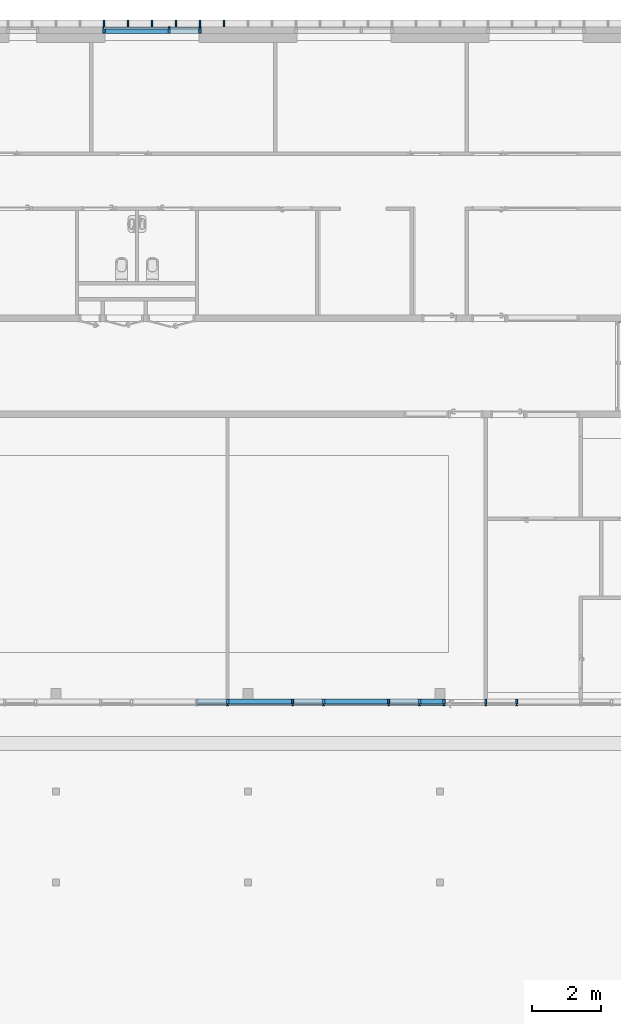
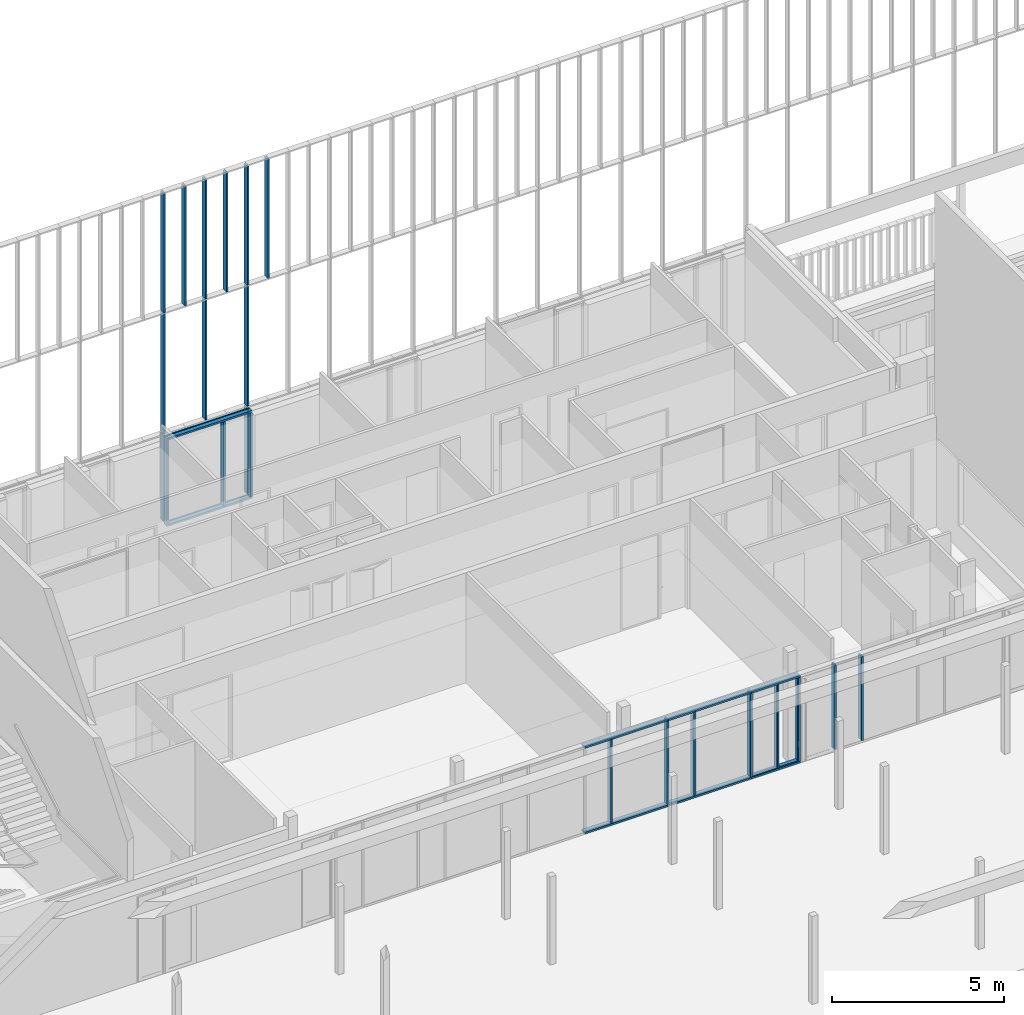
# One storey, part 18 of 240: 34 members, 4 elements without a shape of their own.
"""IFC2X3 building model written with IfcOpenShell, lengths in centimetres."""

from ifc_helpers import new_model, entity, si_unit, converted_unit, derived_unit, direction, frame, origin, origin_2d_with_axis, place, context, subcontext, project, spatial, polyline, rectangle, outline, extrude, source, transform, mapped, material, type_object, type_shapes, element, aggregate, save


model = new_model("IFC2X3")

# Units and contexts
model_context = context("Model", 3, precision=0.001, world=origin(), true_north=direction((6.12303176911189e-17, 1.0)))
body_context = subcontext(model_context, "Body", "Model", "MODEL_VIEW")
ifc_project = project(units=[si_unit("LENGTHUNIT", "METRE", prefix="CENTI"), si_unit("AREAUNIT", "SQUARE_METRE"), si_unit("VOLUMEUNIT", "CUBIC_METRE"), converted_unit("PLANEANGLEUNIT", "DEGREE", entity("IfcRatioMeasure", 0.0174532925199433), si_unit("PLANEANGLEUNIT", "RADIAN"), dimensions=[0, 0, 0, 0, 0, 0, 0]), si_unit("MASSUNIT", "GRAM", prefix="KILO"), derived_unit("MASSDENSITYUNIT", [(si_unit("MASSUNIT", "GRAM", prefix="KILO"), 1), (si_unit("LENGTHUNIT", "METRE"), -3)]), si_unit("TIMEUNIT", "SECOND"), si_unit("FREQUENCYUNIT", "HERTZ"), si_unit("THERMODYNAMICTEMPERATUREUNIT", "DEGREE_CELSIUS"), derived_unit("THERMALTRANSMITTANCEUNIT", [(si_unit("MASSUNIT", "GRAM", prefix="KILO"), 1), (si_unit("THERMODYNAMICTEMPERATUREUNIT", "KELVIN"), -1), (si_unit("TIMEUNIT", "SECOND"), -3)]), derived_unit("VOLUMETRICFLOWRATEUNIT", [(si_unit("LENGTHUNIT", "METRE"), 3), (si_unit("TIMEUNIT", "SECOND"), -1)]), si_unit("ELECTRICCURRENTUNIT", "AMPERE"), si_unit("ELECTRICVOLTAGEUNIT", "VOLT"), si_unit("POWERUNIT", "WATT"), si_unit("FORCEUNIT", "NEWTON", prefix="KILO"), si_unit("ILLUMINANCEUNIT", "LUX"), si_unit("LUMINOUSFLUXUNIT", "LUMEN"), si_unit("LUMINOUSINTENSITYUNIT", "CANDELA"), derived_unit("USERDEFINED", [(si_unit("MASSUNIT", "GRAM", prefix="KILO"), -1), (si_unit("LENGTHUNIT", "METRE"), -2), (si_unit("TIMEUNIT", "SECOND"), 3), (si_unit("LUMINOUSFLUXUNIT", "LUMEN"), 1)]), derived_unit("LINEARVELOCITYUNIT", [(si_unit("LENGTHUNIT", "METRE"), 1), (si_unit("TIMEUNIT", "SECOND"), -1)]), si_unit("PRESSUREUNIT", "PASCAL"), derived_unit("USERDEFINED", [(si_unit("LENGTHUNIT", "METRE"), -2), (si_unit("MASSUNIT", "GRAM", prefix="KILO"), 1), (si_unit("TIMEUNIT", "SECOND"), -2)])], contexts=[model_context])

# Site, building, storey
site_placement = place(None, frame((-2781.94577612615, 7442.24238424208, 0.0)))
site = spatial("IfcSite", under=ifc_project, at=site_placement, Name="Default", CompositionType="ELEMENT")
building_placement = place(site_placement, origin())
building = spatial("IfcBuilding", under=site, at=building_placement, CompositionType="ELEMENT")
storey_placement = place(building_placement, origin())
storey = spatial("IfcBuildingStorey", under=building, at=storey_placement, Name="N00 - COO", CompositionType="ELEMENT", Elevation=0.0)

# Curtain wall, members
curtain_wall_type_1 = type_object("IfcCurtainWallType", Name="Mur-rideau:07 - mur rideau trame 280 cm", PredefinedType="NOTDEFINED")
curtain_wall_1_placement = place(building_placement, origin())
curtain_wall_1 = element("IfcCurtainWall", 1, at=curtain_wall_1_placement, inside=storey, type_object=curtain_wall_type_1, Name="Mur-rideau:07 - mur rideau trame 280 cm", ObjectType="Mur-rideau:07 - mur rideau trame 280 cm")
ifc_material = material(Name="Aluminium")
member_type_1 = type_object("IfcMemberType", Name="150 x 25mm Détails", PredefinedType="MEMBER")
shared_shape_1 = source(origin(), body_context, "Body", "SweptSolid", [
    extrude(outline(polyline([(-5.66666666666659, -3.25), (-3.66666666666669, -3.25), (-3.66666666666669, -0.868749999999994), (-0.166666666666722, -0.868749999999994), (-0.166666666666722, -3.25000000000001), (13.3333333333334, -3.24999999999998), (13.3333333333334, 3.25000000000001), (-0.166666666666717, 3.25000000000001), (-0.166666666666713, 0.868749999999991), (-3.66666666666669, 0.868749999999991), (-3.66666666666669, 3.24999999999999), (-5.66666666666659, 3.24999999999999), (-5.66666666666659, -3.25)])), frame((-3.24999999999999, -1.96666666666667, -280.0), z_axis=(0.0, 0.0, 1.0), x_axis=(0.0, -1.0, 0.0)), (0.0, 0.0, 1.0), 280.00000003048),
])
type_shapes(member_type_1, [shared_shape_1])
member_1_placement = place(building_placement, frame((-6446.24987760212, 26.2000000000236, 0.0), z_axis=(1.0, 0.0, 0.0), x_axis=(0.0, 0.0, -1.0)))
member_1 = element("IfcMember", 2, at=member_1_placement, type_object=member_type_1, material=ifc_material, Name="Meneau rectangulaire:150 x 25mm Détails", ObjectType="Meneau rectangulaire:150 x 25mm Détails", context=body_context, shape_type="MappedRepresentation", body=[
    mapped(shared_shape_1, transform((0.0, 0.0, 0.0), scale=1.0)),
])
member_type_2 = type_object("IfcMemberType", Name="150 x 25mm Détails", PredefinedType="MEMBER")
shared_shape_2 = source(origin(), body_context, "Body", "SweptSolid", [
    extrude(outline(polyline([(-5.66666666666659, -3.25), (-3.66666666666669, -3.25), (-3.66666666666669, -0.868749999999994), (-0.166666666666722, -0.868749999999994), (-0.166666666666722, -3.25000000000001), (13.3333333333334, -3.24999999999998), (13.3333333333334, 3.25000000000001), (-0.166666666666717, 3.25000000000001), (-0.166666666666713, 0.868749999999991), (-3.66666666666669, 0.868749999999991), (-3.66666666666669, 3.24999999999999), (-5.66666666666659, 3.24999999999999), (-5.66666666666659, -3.25)])), frame((-3.24999999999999, -1.96666666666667, -299.5), z_axis=(0.0, 0.0, 1.0), x_axis=(0.0, -1.0, 0.0)), (0.0, 0.0, 1.0), 299.5),
])
type_shapes(member_type_2, [shared_shape_2])
member_2_placement = place(building_placement, frame((-6536.24987760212, 26.2000000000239, 306.0)))
member_2 = element("IfcMember", 3, at=member_2_placement, type_object=member_type_2, material=ifc_material, Name="Meneau rectangulaire:150 x 25mm Détails", ObjectType="Meneau rectangulaire:150 x 25mm Détails", context=body_context, shape_type="MappedRepresentation", body=[
    mapped(shared_shape_2, transform((0.0, 0.0, 0.0), scale=1.0)),
])

curtain_wall_2_placement = place(building_placement, origin())
curtain_wall_2 = element("IfcCurtainWall", 4, at=curtain_wall_2_placement, inside=storey, type_object=curtain_wall_type_1, Name="Mur-rideau:07 - mur rideau trame 280 cm", ObjectType="Mur-rideau:07 - mur rideau trame 280 cm")
member_3_placement = place(building_placement, frame((-6092.74987760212, -1946.27903364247, 306.0), z_axis=(0.0, 0.0, 1.0), x_axis=(-1.0, 0.0, 0.0)))
member_3 = element("IfcMember", 5, at=member_3_placement, type_object=member_type_2, material=ifc_material, Name="Meneau rectangulaire:150 x 25mm Détails", ObjectType="Meneau rectangulaire:150 x 25mm Détails", context=body_context, shape_type="MappedRepresentation", body=[
    mapped(shared_shape_2, transform((0.0, 0.0, 0.0), scale=1.0)),
])
member_4_placement = place(building_placement, frame((-6372.74987760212, -1946.27903364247, 306.0), z_axis=(0.0, 0.0, 1.0), x_axis=(-1.0, 0.0, 0.0)))
member_4 = element("IfcMember", 6, at=member_4_placement, type_object=member_type_2, material=ifc_material, Name="Meneau rectangulaire:150 x 25mm Détails", ObjectType="Meneau rectangulaire:150 x 25mm Détails", context=body_context, shape_type="MappedRepresentation", body=[
    mapped(shared_shape_2, transform((0.0, 0.0, 0.0), scale=1.0)),
])
member_5_placement = place(building_placement, frame((-5812.74987760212, -1946.27903364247, 306.0), z_axis=(0.0, 0.0, 1.0), x_axis=(-1.0, 0.0, 0.0)))
member_5 = element("IfcMember", 7, at=member_5_placement, type_object=member_type_2, material=ifc_material, Name="Meneau rectangulaire:150 x 25mm Détails", ObjectType="Meneau rectangulaire:150 x 25mm Détails", context=body_context, shape_type="MappedRepresentation", body=[
    mapped(shared_shape_2, transform((0.0, 0.0, 0.0), scale=1.0)),
])

# Curtain wall, member
curtain_wall_3_placement = place(building_placement, origin())
curtain_wall_3 = element("IfcCurtainWall", 8, at=curtain_wall_3_placement, inside=storey, type_object=curtain_wall_type_1, Name="Mur-rideau:07 - mur rideau trame 280 cm", ObjectType="Mur-rideau:07 - mur rideau trame 280 cm")
member_6_placement = place(building_placement, frame((-5529.49987760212, -1946.27903364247, 306.0), z_axis=(0.0, 0.0, 1.0), x_axis=(-1.0, 0.0, 0.0)))
member_6 = element("IfcMember", 9, at=member_6_placement, type_object=member_type_2, material=ifc_material, Name="Meneau rectangulaire:150 x 25mm Détails", ObjectType="Meneau rectangulaire:150 x 25mm Détails", context=body_context, shape_type="MappedRepresentation", body=[
    mapped(shared_shape_2, transform((0.0, 0.0, 0.0), scale=1.0)),
])

# Member
member_type_3 = type_object("IfcMemberType", Name="150 x 25mm Détails", PredefinedType="MEMBER")
shared_shape_3 = source(origin(), body_context, "Body", "SweptSolid", [
    extrude(outline(polyline([(-5.6666666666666, -3.24999999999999), (-3.66666666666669, -3.24999999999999), (-3.66666666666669, -0.868749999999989), (-0.166666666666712, -0.868749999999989), (-0.166666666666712, -3.25000000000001), (13.3333333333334, -3.25000000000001), (13.3333333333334, 3.24999999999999), (-0.16666666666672, 3.24999999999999), (-0.16666666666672, 0.868749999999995), (-3.66666666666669, 0.868749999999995), (-3.66666666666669, 3.25), (-5.6666666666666, 3.25), (-5.6666666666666, -3.24999999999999)])), frame((-3.24999999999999, -1.96666666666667, -299.5), z_axis=(0.0, 0.0, 1.0), x_axis=(0.0, -1.0, 0.0)), (0.0, 0.0, 1.0), 299.5),
])
type_shapes(member_type_3, [shared_shape_3])
member_7_placement = place(building_placement, frame((-6452.74987760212, 26.2000000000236, 6.5), z_axis=(0.0, 0.0, -1.0), x_axis=(-1.0, 0.0, 0.0)))
member_7 = element("IfcMember", 10, at=member_7_placement, type_object=member_type_3, material=ifc_material, Name="Meneau rectangulaire:150 x 25mm Détails", ObjectType="Meneau rectangulaire:150 x 25mm Détails", context=body_context, shape_type="MappedRepresentation", body=[
    mapped(shared_shape_3, transform((0.0, 0.0, 0.0), scale=1.0)),
])

member_8_placement = place(building_placement, frame((-6176.24987760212, -1946.27903364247, 6.49999999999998), z_axis=(0.0, 0.0, -1.0), x_axis=(1.0, 0.0, 0.0)))
member_8 = element("IfcMember", 11, at=member_8_placement, type_object=member_type_3, material=ifc_material, Name="Meneau rectangulaire:150 x 25mm Détails", ObjectType="Meneau rectangulaire:150 x 25mm Détails", context=body_context, shape_type="MappedRepresentation", body=[
    mapped(shared_shape_3, transform((0.0, 0.0, 0.0), scale=1.0)),
])

member_9_placement = place(building_placement, frame((-5896.24987760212, -1946.27903364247, 6.49999999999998), z_axis=(0.0, 0.0, -1.0), x_axis=(1.0, 0.0, 0.0)))
member_9 = element("IfcMember", 12, at=member_9_placement, type_object=member_type_3, material=ifc_material, Name="Meneau rectangulaire:150 x 25mm Détails", ObjectType="Meneau rectangulaire:150 x 25mm Détails", context=body_context, shape_type="MappedRepresentation", body=[
    mapped(shared_shape_3, transform((0.0, 0.0, 0.0), scale=1.0)),
])

member_10_placement = place(building_placement, frame((-5612.99987760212, -1946.27903364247, 6.5), z_axis=(0.0, 0.0, -1.0), x_axis=(1.0, 0.0, 0.0)))
member_10 = element("IfcMember", 13, at=member_10_placement, type_object=member_type_3, material=ifc_material, Name="Meneau rectangulaire:150 x 25mm Détails", ObjectType="Meneau rectangulaire:150 x 25mm Détails", context=body_context, shape_type="MappedRepresentation", body=[
    mapped(shared_shape_3, transform((0.0, 0.0, 0.0), scale=1.0)),
])

member_type_4 = type_object("IfcMemberType", Name="150 x 25mm Détails", PredefinedType="MEMBER")
shared_shape_4 = source(origin(), body_context, "Body", "SweptSolid", [
    extrude(outline(polyline([(-5.6666666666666, -3.24999999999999), (-3.66666666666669, -3.24999999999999), (-3.66666666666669, -0.868749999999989), (-0.166666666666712, -0.868749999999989), (-0.166666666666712, -3.25000000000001), (13.3333333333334, -3.25000000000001), (13.3333333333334, 3.24999999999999), (-0.16666666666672, 3.24999999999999), (-0.16666666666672, 0.868749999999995), (-3.66666666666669, 0.868749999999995), (-3.66666666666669, 3.25), (-5.6666666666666, 3.25), (-5.6666666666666, -3.24999999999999)])), frame((-3.24999999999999, -1.96666666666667, -280.0), z_axis=(0.0, 0.0, 1.0), x_axis=(0.0, -1.0, 0.0)), (0.0, 0.0, 1.0), 280.000000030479),
])
type_shapes(member_type_4, [shared_shape_4])
member_11_placement = place(building_placement, frame((-6726.2498776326, 26.2000000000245, 313.0), z_axis=(-1.0, 0.0, 0.0), x_axis=(0.0, 0.0, 1.0)))
member_11 = element("IfcMember", 14, at=member_11_placement, type_object=member_type_4, material=ifc_material, Name="Meneau rectangulaire:150 x 25mm Détails", ObjectType="Meneau rectangulaire:150 x 25mm Détails", context=body_context, shape_type="MappedRepresentation", body=[
    mapped(shared_shape_4, transform((0.0, 0.0, 0.0), scale=1.0)),
])

member_type_5 = type_object("IfcMemberType", Name="150 x 25mm Détails", PredefinedType="MEMBER")
shared_shape_5 = source(origin(), body_context, "Body", "SweptSolid", [
    extrude(outline(polyline([(-5.6666666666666, -3.24999999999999), (-3.66666666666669, -3.24999999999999), (-3.66666666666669, -0.868749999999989), (-0.166666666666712, -0.868749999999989), (-0.166666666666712, -3.25000000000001), (13.3333333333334, -3.25000000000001), (13.3333333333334, 3.24999999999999), (-0.16666666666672, 3.24999999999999), (-0.16666666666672, 0.868749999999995), (-3.66666666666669, 0.868749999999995), (-3.66666666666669, 3.25), (-5.6666666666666, 3.25), (-5.6666666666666, -3.24999999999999)])), frame((-3.24999999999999, -1.96666666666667, -313.0), z_axis=(0.0, 0.0, 1.0), x_axis=(0.0, -1.0, 0.0)), (0.0, 0.0, 1.0), 313.0),
])
type_shapes(member_type_5, [shared_shape_5])
member_12_placement = place(building_placement, frame((-6732.74987760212, 26.2000000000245, 0.0), z_axis=(0.0, 0.0, -1.0), x_axis=(-1.0, 0.0, 0.0)))
member_12 = element("IfcMember", 15, at=member_12_placement, type_object=member_type_5, material=ifc_material, Name="Meneau rectangulaire:150 x 25mm Détails", ObjectType="Meneau rectangulaire:150 x 25mm Détails", context=body_context, shape_type="MappedRepresentation", body=[
    mapped(shared_shape_5, transform((0.0, 0.0, 0.0), scale=1.0)),
])

member_type_6 = type_object("IfcMemberType", Name="150 x 25mm Détails", PredefinedType="MEMBER")
shared_shape_6 = source(origin(), body_context, "Body", "SweptSolid", [
    extrude(outline(polyline([(-5.66666666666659, -3.25), (-3.66666666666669, -3.25), (-3.66666666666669, -0.868749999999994), (-0.166666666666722, -0.868749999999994), (-0.166666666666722, -3.25000000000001), (13.3333333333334, -3.24999999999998), (13.3333333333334, 3.25000000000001), (-0.166666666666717, 3.25000000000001), (-0.166666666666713, 0.868749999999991), (-3.66666666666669, 0.868749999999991), (-3.66666666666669, 3.24999999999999), (-5.66666666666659, 3.24999999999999), (-5.66666666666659, -3.25)])), frame((-3.24999999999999, -1.96666666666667, -300.0), z_axis=(0.0, 0.0, 1.0), x_axis=(0.0, -1.0, 0.0)), (0.0, 0.0, 1.0), 300.0),
])
type_shapes(member_type_6, [shared_shape_6])
member_13_placement = place(building_placement, frame((-6446.24987760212, 26.2000000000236, 306.5)))
member_13 = element("IfcMember", 16, at=member_13_placement, type_object=member_type_6, material=ifc_material, Name="Meneau rectangulaire:150 x 25mm Détails", ObjectType="Meneau rectangulaire:150 x 25mm Détails", context=body_context, shape_type="MappedRepresentation", body=[
    mapped(shared_shape_6, transform((0.0, 0.0, 0.0), scale=1.0)),
])

aggregate(curtain_wall_1, [member_1, member_12, member_13, member_2, member_7, member_11])

# Curtain wall, members
curtain_wall_type_2 = type_object("IfcCurtainWallType", Name="Mur-rideau:Epines - 200x50mm", PredefinedType="NOTDEFINED")
curtain_wall_4_placement = place(building_placement, origin())
curtain_wall_4 = element("IfcCurtainWall", 17, at=curtain_wall_4_placement, inside=storey, type_object=curtain_wall_type_2, Name="Mur-rideau:Epines - 200x50mm", ObjectType="Mur-rideau:Epines - 200x50mm")
member_type_7 = type_object("IfcMemberType", Name="200x50 mm", PredefinedType="MEMBER")
shared_shape_7 = source(origin(), body_context, "Body", "SweptSolid", [
    extrude(rectangle(XDim=20.0, YDim=5.0, at=origin_2d_with_axis()), frame((0.0, 0.0, -423.0), z_axis=(0.0, 0.0, 1.0), x_axis=(0.0, -1.0, 0.0)), (0.0, 0.0, 1.0), 423.000000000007),
])
type_shapes(member_type_7, [shared_shape_7])
member_14_placement = place(building_placement, frame((-6449.49987760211, 40.0, 748.0), z_axis=(0.0, 0.0, -1.0), x_axis=(1.0, 0.0, 0.0)))
member_14 = element("IfcMember", 18, at=member_14_placement, type_object=member_type_7, material=ifc_material, Name="Meneau rectangulaire:200x50 mm", ObjectType="Meneau rectangulaire:200x50 mm", context=body_context, shape_type="MappedRepresentation", body=[
    mapped(shared_shape_7, transform((0.0, 0.0, 0.0), scale=1.0)),
])
member_15_placement = place(building_placement, frame((-6729.49987760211, 40.0, 748.0), z_axis=(0.0, 0.0, -1.0), x_axis=(1.0, 0.0, 0.0)))
member_15 = element("IfcMember", 19, at=member_15_placement, type_object=member_type_7, material=ifc_material, Name="Meneau rectangulaire:200x50 mm", ObjectType="Meneau rectangulaire:200x50 mm", context=body_context, shape_type="MappedRepresentation", body=[
    mapped(shared_shape_7, transform((0.0, 0.0, 0.0), scale=1.0)),
])
member_16_placement = place(building_placement, frame((-6589.49987760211, 40.0, 748.0), z_axis=(0.0, 0.0, -1.0), x_axis=(1.0, 0.0, 0.0)))
member_16 = element("IfcMember", 20, at=member_16_placement, type_object=member_type_7, material=ifc_material, Name="Meneau rectangulaire:200x50 mm", ObjectType="Meneau rectangulaire:200x50 mm", context=body_context, shape_type="MappedRepresentation", body=[
    mapped(shared_shape_7, transform((0.0, 0.0, 0.0), scale=1.0)),
])
member_17_placement = place(building_placement, frame((-6379.49987760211, 40.0, 748.0), z_axis=(0.0, 0.0, -1.0), x_axis=(1.0, 0.0, 0.0)))
member_17 = element("IfcMember", 21, at=member_17_placement, type_object=member_type_7, material=ifc_material, Name="Meneau rectangulaire:200x50 mm", ObjectType="Meneau rectangulaire:200x50 mm", context=body_context, shape_type="MappedRepresentation", body=[
    mapped(shared_shape_7, transform((0.0, 0.0, 0.0), scale=1.0)),
])
member_18_placement = place(building_placement, frame((-6659.49987760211, 40.0, 748.0), z_axis=(0.0, 0.0, -1.0), x_axis=(1.0, 0.0, 0.0)))
member_18 = element("IfcMember", 22, at=member_18_placement, type_object=member_type_7, material=ifc_material, Name="Meneau rectangulaire:200x50 mm", ObjectType="Meneau rectangulaire:200x50 mm", context=body_context, shape_type="MappedRepresentation", body=[
    mapped(shared_shape_7, transform((0.0, 0.0, 0.0), scale=1.0)),
])
member_19_placement = place(building_placement, frame((-6519.49987760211, 40.0, 748.0), z_axis=(0.0, 0.0, -1.0), x_axis=(1.0, 0.0, 0.0)))
member_19 = element("IfcMember", 23, at=member_19_placement, type_object=member_type_7, material=ifc_material, Name="Meneau rectangulaire:200x50 mm", ObjectType="Meneau rectangulaire:200x50 mm", context=body_context, shape_type="MappedRepresentation", body=[
    mapped(shared_shape_7, transform((0.0, 0.0, 0.0), scale=1.0)),
])
member_type_8 = type_object("IfcMemberType", Name="200x50 mm", PredefinedType="MEMBER")
shared_shape_8 = source(origin(), body_context, "Body", "SweptSolid", [
    extrude(rectangle(XDim=20.0, YDim=5.0, at=origin_2d_with_axis()), frame((0.0, 0.0, -425.5), z_axis=(0.0, 0.0, 1.0), x_axis=(0.0, -1.0, 0.0)), (0.0, 0.0, 1.0), 425.5),
])
type_shapes(member_type_8, [shared_shape_8])
member_20_placement = place(building_placement, frame((-6449.49987760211, 40.0, 317.5), z_axis=(0.0, 0.0, -1.0), x_axis=(1.0, 0.0, 0.0)))
member_20 = element("IfcMember", 24, at=member_20_placement, type_object=member_type_8, material=ifc_material, Name="Meneau rectangulaire:200x50 mm", ObjectType="Meneau rectangulaire:200x50 mm", context=body_context, shape_type="MappedRepresentation", body=[
    mapped(shared_shape_8, transform((0.0, 0.0, 0.0), scale=1.0)),
])
member_21_placement = place(building_placement, frame((-6729.49987760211, 40.0, 317.5), z_axis=(0.0, 0.0, -1.0), x_axis=(1.0, 0.0, 0.0)))
member_21 = element("IfcMember", 25, at=member_21_placement, type_object=member_type_8, material=ifc_material, Name="Meneau rectangulaire:200x50 mm", ObjectType="Meneau rectangulaire:200x50 mm", context=body_context, shape_type="MappedRepresentation", body=[
    mapped(shared_shape_8, transform((0.0, 0.0, 0.0), scale=1.0)),
])
member_22_placement = place(building_placement, frame((-6589.49987760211, 40.0, 317.5), z_axis=(0.0, 0.0, -1.0), x_axis=(1.0, 0.0, 0.0)))
member_22 = element("IfcMember", 26, at=member_22_placement, type_object=member_type_8, material=ifc_material, Name="Meneau rectangulaire:200x50 mm", ObjectType="Meneau rectangulaire:200x50 mm", context=body_context, shape_type="MappedRepresentation", body=[
    mapped(shared_shape_8, transform((0.0, 0.0, 0.0), scale=1.0)),
])
member_type_9 = type_object("IfcMemberType", Name="200x50 mm", PredefinedType="MEMBER")
shared_shape_9 = source(origin(), body_context, "Body", "SweptSolid", [
    extrude(rectangle(XDim=20.0, YDim=5.0, at=origin_2d_with_axis()), frame((0.0, 0.0, -307.5), z_axis=(0.0, 0.0, 1.0), x_axis=(0.0, -1.0, 0.0)), (0.0, 0.0, 1.0), 307.5),
])
type_shapes(member_type_9, [shared_shape_9])
member_23_placement = place(building_placement, frame((-6449.49987760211, 40.0, 5.0), z_axis=(0.0, 0.0, -1.0), x_axis=(1.0, 0.0, 0.0)))
member_23 = element("IfcMember", 27, at=member_23_placement, type_object=member_type_9, material=ifc_material, Name="Meneau rectangulaire:200x50 mm", ObjectType="Meneau rectangulaire:200x50 mm", context=body_context, shape_type="MappedRepresentation", body=[
    mapped(shared_shape_9, transform((0.0, 0.0, 0.0), scale=1.0)),
])
member_24_placement = place(building_placement, frame((-6729.49987760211, 40.0, 5.0), z_axis=(0.0, 0.0, -1.0), x_axis=(1.0, 0.0, 0.0)))
member_24 = element("IfcMember", 28, at=member_24_placement, type_object=member_type_9, material=ifc_material, Name="Meneau rectangulaire:200x50 mm", ObjectType="Meneau rectangulaire:200x50 mm", context=body_context, shape_type="MappedRepresentation", body=[
    mapped(shared_shape_9, transform((0.0, 0.0, 0.0), scale=1.0)),
])
aggregate(curtain_wall_4, [member_14, member_20, member_23, member_15, member_21, member_24, member_16, member_22, member_17, member_18, member_19])

# Member
member_type_10 = type_object("IfcMemberType", Name="150 x 25mm Détails", PredefinedType="MEMBER")
shared_shape_10 = source(origin(), body_context, "Body", "SweptSolid", [
    extrude(outline(polyline([(-5.66666666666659, -3.25), (-3.66666666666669, -3.25), (-3.66666666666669, -0.868749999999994), (-0.166666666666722, -0.868749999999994), (-0.166666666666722, -3.25000000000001), (13.3333333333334, -3.24999999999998), (13.3333333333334, 3.25000000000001), (-0.166666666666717, 3.25000000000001), (-0.166666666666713, 0.868749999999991), (-3.66666666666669, 0.868749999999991), (-3.66666666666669, 3.24999999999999), (-5.66666666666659, 3.24999999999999), (-5.66666666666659, -3.25)])), frame((-3.24999999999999, -1.96666666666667, -280.0), z_axis=(0.0, 0.0, 1.0), x_axis=(0.0, -1.0, 0.0)), (0.0, 0.0, 1.0), 280.0),
])
type_shapes(member_type_10, [shared_shape_10])
member_25_placement = place(building_placement, frame((-6459.49987760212, -1946.27903364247, 0.0), z_axis=(-1.0, 0.0, 0.0), x_axis=(0.0, 0.0, -1.0)))
member_25 = element("IfcMember", 29, at=member_25_placement, type_object=member_type_10, material=ifc_material, Name="Meneau rectangulaire:150 x 25mm Détails", ObjectType="Meneau rectangulaire:150 x 25mm Détails", context=body_context, shape_type="MappedRepresentation", body=[
    mapped(shared_shape_10, transform((0.0, 0.0, 0.0), scale=1.0)),
])

member_26_placement = place(building_placement, frame((-6179.49987760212, -1946.27903364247, 0.0), z_axis=(-1.0, 0.0, 0.0), x_axis=(0.0, 0.0, -1.0)))
member_26 = element("IfcMember", 30, at=member_26_placement, type_object=member_type_10, material=ifc_material, Name="Meneau rectangulaire:150 x 25mm Détails", ObjectType="Meneau rectangulaire:150 x 25mm Détails", context=body_context, shape_type="MappedRepresentation", body=[
    mapped(shared_shape_10, transform((0.0, 0.0, 0.0), scale=1.0)),
])

member_type_11 = type_object("IfcMemberType", Name="150 x 25mm Détails", PredefinedType="MEMBER")
shared_shape_11 = source(origin(), body_context, "Body", "SweptSolid", [
    extrude(outline(polyline([(-5.66666666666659, -3.25), (-3.66666666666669, -3.25), (-3.66666666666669, -0.868749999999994), (-0.166666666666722, -0.868749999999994), (-0.166666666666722, -3.25000000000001), (13.3333333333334, -3.24999999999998), (13.3333333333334, 3.25000000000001), (-0.166666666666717, 3.25000000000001), (-0.166666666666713, 0.868749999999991), (-3.66666666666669, 0.868749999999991), (-3.66666666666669, 3.24999999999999), (-5.66666666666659, 3.24999999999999), (-5.66666666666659, -3.25)])), frame((-3.24999999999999, -1.96666666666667, -165.0), z_axis=(0.0, 0.0, 1.0), x_axis=(0.0, -1.0, 0.0)), (0.0, 0.0, 1.0), 164.99999996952),
])
type_shapes(member_type_11, [shared_shape_11])
member_27_placement = place(building_placement, frame((-5899.49987760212, -1946.27903364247, 0.0), z_axis=(-1.0, 0.0, 0.0), x_axis=(0.0, 0.0, -1.0)))
member_27 = element("IfcMember", 31, at=member_27_placement, type_object=member_type_11, material=ifc_material, Name="Meneau rectangulaire:150 x 25mm Détails", ObjectType="Meneau rectangulaire:150 x 25mm Détails", context=body_context, shape_type="MappedRepresentation", body=[
    mapped(shared_shape_11, transform((0.0, 0.0, 0.0), scale=1.0)),
])

member_type_12 = type_object("IfcMemberType", Name="150 x 25mm Détails", PredefinedType="MEMBER")
shared_shape_12 = source(origin(), body_context, "Body", "SweptSolid", [
    extrude(outline(polyline([(-5.66666666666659, -3.25), (-3.66666666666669, -3.25), (-3.66666666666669, -0.868749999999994), (-0.166666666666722, -0.868749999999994), (-0.166666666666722, -3.25000000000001), (13.3333333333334, -3.24999999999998), (13.3333333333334, 3.25000000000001), (-0.166666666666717, 3.25000000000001), (-0.166666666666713, 0.868749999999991), (-3.66666666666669, 0.868749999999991), (-3.66666666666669, 3.24999999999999), (-5.66666666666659, 3.24999999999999), (-5.66666666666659, -3.25)])), frame((-3.24999999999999, -1.96666666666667, -298.0), z_axis=(0.0, 0.0, 1.0), x_axis=(0.0, -1.0, 0.0)), (0.0, 0.0, 1.0), 298.0),
])
type_shapes(member_type_12, [shared_shape_12])
member_28_placement = place(building_placement, frame((-5619.49987760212, -1946.27903364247, 304.5), z_axis=(0.0, 0.0, 1.0), x_axis=(-1.0, 0.0, 0.0)))
member_28 = element("IfcMember", 32, at=member_28_placement, type_object=member_type_12, material=ifc_material, Name="Meneau rectangulaire:150 x 25mm Détails", ObjectType="Meneau rectangulaire:150 x 25mm Détails", context=body_context, shape_type="MappedRepresentation", body=[
    mapped(shared_shape_12, transform((0.0, 0.0, 0.0), scale=1.0)),
])

aggregate(curtain_wall_3, [member_6, member_10, member_28])

member_type_13 = type_object("IfcMemberType", Name="150 x 25mm Détails", PredefinedType="MEMBER")
shared_shape_13 = source(origin(), body_context, "Body", "SweptSolid", [
    extrude(outline(polyline([(-5.66666666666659, -3.24999999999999), (-3.66666666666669, -3.24999999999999), (-3.66666666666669, -0.86874999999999), (-0.166666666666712, -0.86874999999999), (-0.166666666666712, -3.25000000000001), (13.3333333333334, -3.25000000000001), (13.3333333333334, 3.24999999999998), (-0.166666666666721, 3.24999999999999), (-0.166666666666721, 0.868749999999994), (-3.66666666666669, 0.868749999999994), (-3.66666666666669, 3.25), (-5.66666666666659, 3.25), (-5.66666666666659, -3.24999999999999)])), frame((0.0, -1.96666666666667, -298.0), z_axis=(0.0, 0.0, 1.0), x_axis=(0.0, -1.0, 0.0)), (0.0, 0.0, 1.0), 298.0),
])
type_shapes(member_type_13, [shared_shape_13])
member_29_placement = place(building_placement, frame((-6179.49987760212, -1946.27903364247, 6.49999999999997), z_axis=(0.0, 0.0, -1.0), x_axis=(1.0, 0.0, 0.0)))
member_29 = element("IfcMember", 33, at=member_29_placement, type_object=member_type_13, material=ifc_material, Name="Meneau rectangulaire:150 x 25mm Détails", ObjectType="Meneau rectangulaire:150 x 25mm Détails", context=body_context, shape_type="MappedRepresentation", body=[
    mapped(shared_shape_13, transform((0.0, 0.0, 0.0), scale=1.0)),
])

member_30_placement = place(building_placement, frame((-5899.49987760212, -1946.27903364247, 6.49999999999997), z_axis=(0.0, 0.0, -1.0), x_axis=(1.0, 0.0, 0.0)))
member_30 = element("IfcMember", 34, at=member_30_placement, type_object=member_type_13, material=ifc_material, Name="Meneau rectangulaire:150 x 25mm Détails", ObjectType="Meneau rectangulaire:150 x 25mm Détails", context=body_context, shape_type="MappedRepresentation", body=[
    mapped(shared_shape_13, transform((0.0, 0.0, 0.0), scale=1.0)),
])

member_type_14 = type_object("IfcMemberType", Name="150 x 25mm Détails", PredefinedType="MEMBER")
shared_shape_14 = source(origin(), body_context, "Body", "SweptSolid", [
    extrude(outline(polyline([(-5.6666666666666, -3.24999999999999), (-3.66666666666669, -3.24999999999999), (-3.66666666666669, -0.868749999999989), (-0.166666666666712, -0.868749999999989), (-0.166666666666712, -3.25000000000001), (13.3333333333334, -3.25000000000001), (13.3333333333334, 3.24999999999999), (-0.16666666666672, 3.24999999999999), (-0.16666666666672, 0.868749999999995), (-3.66666666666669, 0.868749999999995), (-3.66666666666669, 3.25), (-5.6666666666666, 3.25), (-5.6666666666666, -3.24999999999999)])), frame((-3.24999999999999, -1.96666666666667, -298.0), z_axis=(0.0, 0.0, 1.0), x_axis=(0.0, -1.0, 0.0)), (0.0, 0.0, 1.0), 298.0),
])
type_shapes(member_type_14, [shared_shape_14])
member_31_placement = place(building_placement, frame((-5734.4998776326, -1946.27903364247, 6.49999999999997), z_axis=(0.0, 0.0, -1.0), x_axis=(1.0, 0.0, 0.0)))
member_31 = element("IfcMember", 35, at=member_31_placement, type_object=member_type_14, material=ifc_material, Name="Meneau rectangulaire:150 x 25mm Détails", ObjectType="Meneau rectangulaire:150 x 25mm Détails", context=body_context, shape_type="MappedRepresentation", body=[
    mapped(shared_shape_14, transform((0.0, 0.0, 0.0), scale=1.0)),
])

member_type_15 = type_object("IfcMemberType", Name="150 x 25mm Détails", PredefinedType="MEMBER")
shared_shape_15 = source(origin(), body_context, "Body", "SweptSolid", [
    extrude(outline(polyline([(-5.6666666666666, -3.24999999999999), (-3.66666666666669, -3.24999999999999), (-3.66666666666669, -0.868749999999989), (-0.166666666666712, -0.868749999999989), (-0.166666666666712, -3.25000000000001), (13.3333333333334, -3.25000000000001), (13.3333333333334, 3.24999999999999), (-0.16666666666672, 3.24999999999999), (-0.16666666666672, 0.868749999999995), (-3.66666666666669, 0.868749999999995), (-3.66666666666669, 3.25), (-5.6666666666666, 3.25), (-5.6666666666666, -3.24999999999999)])), frame((-3.24999999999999, -1.96666666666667, -165.0), z_axis=(0.0, 0.0, 1.0), x_axis=(0.0, -1.0, 0.0)), (0.0, 0.0, 1.0), 164.999999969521),
])
type_shapes(member_type_15, [shared_shape_15])
member_32_placement = place(building_placement, frame((-5734.4998776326, -1946.27903364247, 311.0), z_axis=(1.0, 0.0, 0.0), x_axis=(0.0, 0.0, 1.0)))
member_32 = element("IfcMember", 36, at=member_32_placement, type_object=member_type_15, material=ifc_material, Name="Meneau rectangulaire:150 x 25mm Détails", ObjectType="Meneau rectangulaire:150 x 25mm Détails", context=body_context, shape_type="MappedRepresentation", body=[
    mapped(shared_shape_15, transform((0.0, 0.0, 0.0), scale=1.0)),
])

member_type_16 = type_object("IfcMemberType", Name="150 x 25mm Détails", PredefinedType="MEMBER")
shared_shape_16 = source(origin(), body_context, "Body", "SweptSolid", [
    extrude(outline(polyline([(-5.6666666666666, -3.24999999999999), (-3.66666666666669, -3.24999999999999), (-3.66666666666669, -0.868749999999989), (-0.166666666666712, -0.868749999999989), (-0.166666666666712, -3.25000000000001), (13.3333333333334, -3.25000000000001), (13.3333333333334, 3.24999999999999), (-0.16666666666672, 3.24999999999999), (-0.16666666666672, 0.868749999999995), (-3.66666666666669, 0.868749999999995), (-3.66666666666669, 3.25), (-5.6666666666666, 3.25), (-5.6666666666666, -3.24999999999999)])), frame((-3.24999999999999, -1.96666666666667, -280.0), z_axis=(0.0, 0.0, 1.0), x_axis=(0.0, -1.0, 0.0)), (0.0, 0.0, 1.0), 280.0),
])
type_shapes(member_type_16, [shared_shape_16])
member_33_placement = place(building_placement, frame((-6179.49987760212, -1946.27903364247, 311.0), z_axis=(1.0, 0.0, 0.0), x_axis=(0.0, 0.0, 1.0)))
member_33 = element("IfcMember", 37, at=member_33_placement, type_object=member_type_16, material=ifc_material, Name="Meneau rectangulaire:150 x 25mm Détails", ObjectType="Meneau rectangulaire:150 x 25mm Détails", context=body_context, shape_type="MappedRepresentation", body=[
    mapped(shared_shape_16, transform((0.0, 0.0, 0.0), scale=1.0)),
])

member_34_placement = place(building_placement, frame((-5899.49987760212, -1946.27903364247, 311.0), z_axis=(1.0, 0.0, 0.0), x_axis=(0.0, 0.0, 1.0)))
member_34 = element("IfcMember", 38, at=member_34_placement, type_object=member_type_16, material=ifc_material, Name="Meneau rectangulaire:150 x 25mm Détails", ObjectType="Meneau rectangulaire:150 x 25mm Détails", context=body_context, shape_type="MappedRepresentation", body=[
    mapped(shared_shape_16, transform((0.0, 0.0, 0.0), scale=1.0)),
])

aggregate(curtain_wall_2, [member_25, member_26, member_27, member_29, member_30, member_3, member_8, member_4, member_5, member_9, member_31, member_32, member_33, member_34])

save(model, "model.ifc")
